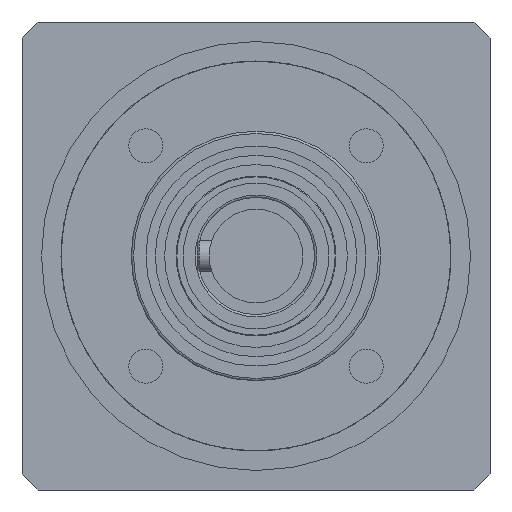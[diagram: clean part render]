
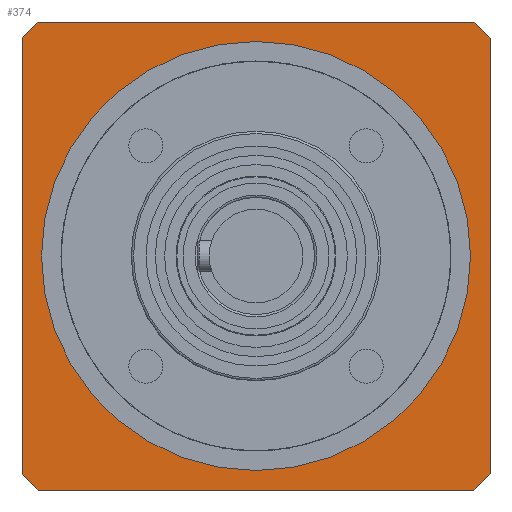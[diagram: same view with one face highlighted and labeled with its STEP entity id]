
A CAD part, left-side view. The second image highlights one B-rep face of the part: STEP entity #374.
In plain terms, the highlighted planar face has unit normal (-1, 0, 0).
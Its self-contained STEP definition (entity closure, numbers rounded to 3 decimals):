
#147=LINE('',#2732,#201);
#148=LINE('',#2736,#202);
#149=LINE('',#2740,#203);
#150=LINE('',#2744,#204);
#201=VECTOR('',#2157,1.);
#202=VECTOR('',#2160,1.);
#203=VECTOR('',#2163,1.);
#204=VECTOR('',#2166,1.);
#281=FACE_OUTER_BOUND('',#794,.T.);
#320=PLANE('',#1876);
#374=ADVANCED_FACE('',(#281),#320,.T.);
#794=EDGE_LOOP('',(#1038,#1039,#1040,#1041,#1042,#1043,#1044,#1045));
#1038=ORIENTED_EDGE('',*,*,#1557,.F.);
#1039=ORIENTED_EDGE('',*,*,#1558,.F.);
#1040=ORIENTED_EDGE('',*,*,#1559,.F.);
#1041=ORIENTED_EDGE('',*,*,#1560,.F.);
#1042=ORIENTED_EDGE('',*,*,#1561,.F.);
#1043=ORIENTED_EDGE('',*,*,#1562,.F.);
#1044=ORIENTED_EDGE('',*,*,#1563,.F.);
#1045=ORIENTED_EDGE('',*,*,#1564,.F.);
#1392=VERTEX_POINT('',#2730);
#1393=VERTEX_POINT('',#2731);
#1394=VERTEX_POINT('',#2733);
#1395=VERTEX_POINT('',#2735);
#1396=VERTEX_POINT('',#2737);
#1397=VERTEX_POINT('',#2739);
#1398=VERTEX_POINT('',#2741);
#1399=VERTEX_POINT('',#2743);
#1557=EDGE_CURVE('',#1392,#1393,#1738,.T.);
#1558=EDGE_CURVE('',#1394,#1392,#147,.T.);
#1559=EDGE_CURVE('',#1395,#1394,#1739,.T.);
#1560=EDGE_CURVE('',#1396,#1395,#148,.T.);
#1561=EDGE_CURVE('',#1397,#1396,#1740,.T.);
#1562=EDGE_CURVE('',#1398,#1397,#149,.T.);
#1563=EDGE_CURVE('',#1399,#1398,#1741,.T.);
#1564=EDGE_CURVE('',#1393,#1399,#150,.T.);
#1738=CIRCLE('',#1872,41.);
#1739=CIRCLE('',#1873,41.);
#1740=CIRCLE('',#1874,41.);
#1741=CIRCLE('',#1875,41.);
#1872=AXIS2_PLACEMENT_3D('',#2729,#2155,#2156);
#1873=AXIS2_PLACEMENT_3D('',#2734,#2158,#2159);
#1874=AXIS2_PLACEMENT_3D('',#2738,#2161,#2162);
#1875=AXIS2_PLACEMENT_3D('',#2742,#2164,#2165);
#1876=AXIS2_PLACEMENT_3D('',#2745,#2167,#2168);
#2155=DIRECTION('',(1.,0.,0.));
#2156=DIRECTION('',(0.,0.,1.));
#2157=DIRECTION('',(0.,-1.,0.));
#2158=DIRECTION('',(1.,0.,0.));
#2159=DIRECTION('',(0.,1.,0.));
#2160=DIRECTION('',(0.,0.,1.));
#2161=DIRECTION('',(1.,0.,0.));
#2162=DIRECTION('',(0.,0.,-1.));
#2163=DIRECTION('',(0.,1.,0.));
#2164=DIRECTION('',(1.,0.,0.));
#2165=DIRECTION('',(0.,-1.,0.));
#2166=DIRECTION('',(0.,0.,-1.));
#2167=DIRECTION('',(-1.,0.,0.));
#2168=DIRECTION('',(0.,1.,0.));
#2729=CARTESIAN_POINT('',(0.,0.,0.));
#2730=CARTESIAN_POINT('',(0.,-27.946,30.));
#2731=CARTESIAN_POINT('',(0.,-30.,27.946));
#2732=CARTESIAN_POINT('',(0.,0.,30.));
#2733=CARTESIAN_POINT('',(0.,27.946,30.));
#2734=CARTESIAN_POINT('',(0.,0.,0.));
#2735=CARTESIAN_POINT('',(0.,30.,27.946));
#2736=CARTESIAN_POINT('',(0.,30.,0.));
#2737=CARTESIAN_POINT('',(0.,30.,-27.946));
#2738=CARTESIAN_POINT('',(0.,0.,0.));
#2739=CARTESIAN_POINT('',(0.,27.946,-30.));
#2740=CARTESIAN_POINT('',(0.,0.,-30.));
#2741=CARTESIAN_POINT('',(0.,-27.946,-30.));
#2742=CARTESIAN_POINT('',(0.,0.,0.));
#2743=CARTESIAN_POINT('',(0.,-30.,-27.946));
#2744=CARTESIAN_POINT('',(0.,-30.,0.));
#2745=CARTESIAN_POINT('',(0.,0.,0.));
